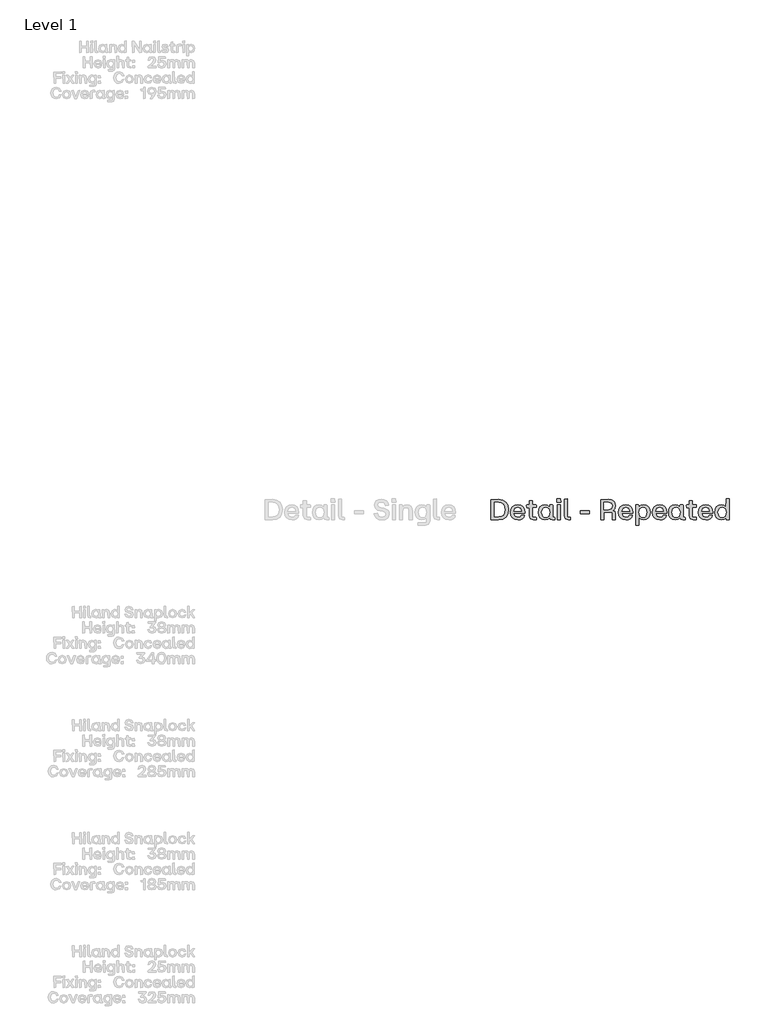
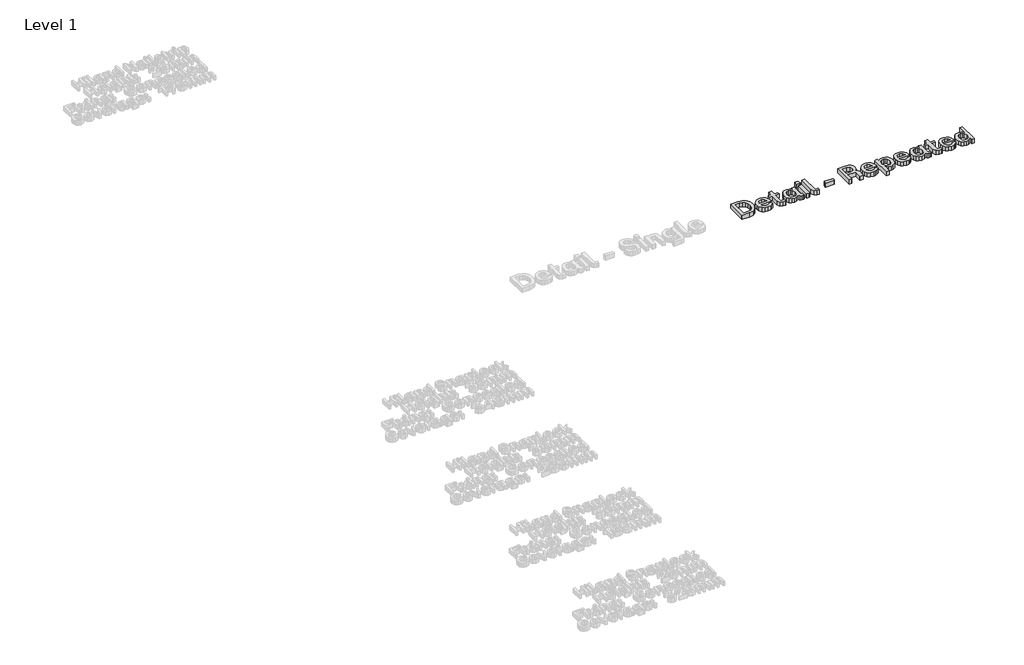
# One storey, part 26 of 64: 1 proxy.
"""IFC4 building model written with IfcOpenShell, lengths in millimetres."""

from ifc_helpers import new_model, si_unit, origin, origin_with_axes, place, context, project, spatial, polyline, outline, extrude, element, save

model = new_model("IFC4")

# Units and contexts
model_context = context("Model", 3, world=origin())
ifc_project = project(units=[si_unit("LENGTHUNIT", "METRE", prefix="MILLI")], contexts=[model_context])

# Site, building, storey
site = spatial("IfcSite", under=ifc_project)
building = spatial("IfcBuilding", under=site)
storey = spatial("IfcBuildingStorey", under=building, Name="Level 1", Elevation=0.0)

# Proxy
placement = place(None, origin())
element("IfcBuildingElementProxy", 1, Name="90mm", ObjectType="90mm", at=placement, inside=storey, context=model_context, shape_type="SweptSolid", body=[
    extrude(outline(polyline([(4310.2926176, -6500.0), (4308.9872124, -6498.7448027), (4308.9872124, -6411.3077612), (4342.5511873, -6410.002356), (4360.5475781, -6413.0054155), (4374.1193986, -6422.0145938), (4382.63905, -6436.3583606), (4385.4789338, -6455.3651852), (4382.648464, -6474.2025582), (4374.1570545, -6488.2890095), (4360.594648, -6497.0722524), (4342.5511873, -6500.0), (4310.2926176, -6500.0)]), holes=[polyline([(4323.7985402, -6487.3727155), (4341.6725492, -6487.3727155), (4353.8950326, -6485.311054), (4362.9481429, -6479.1260695), (4368.5494607, -6469.0625254), (4370.4165666, -6455.3651852), (4368.5431847, -6441.5109454), (4362.923039, -6431.1775339), (4353.8636527, -6424.7477859), (4341.6725492, -6422.6045366), (4323.7985402, -6422.6045366), (4323.7985402, -6487.3727155)])]), origin_with_axes(), (0.0, 0.0, 1.0), 20.0),
    extrude(outline(polyline([(4427.628458, -6500.7531184), (4414.0409476, -6498.4843493), (4403.5035666, -6491.6780421), (4396.7443293, -6481.0622112), (4394.4912502, -6467.3648711), (4396.7349153, -6453.5012173), (4403.4659107, -6442.7881086), (4413.9938777, -6435.9347315), (4427.628458, -6433.6502725), (4440.1584647, -6435.9033516), (4449.7324819, -6442.6625889), (4455.8044987, -6453.3129377), (4457.8285043, -6467.2393514), (4457.8285043, -6470.6785919), (4456.573307, -6472.009101), (4409.1268503, -6472.009101), (4414.6497183, -6484.6865934), (4427.628458, -6489.2053035), (4438.0465953, -6486.9082925), (4443.4439436, -6480.4691305), (4444.8246606, -6479.4147648), (4456.1967478, -6479.4147648), (4454.1633282, -6488.7314665), (4447.8120301, -6495.1925945), (4438.8248176, -6499.3629874), (4427.628458, -6500.7531184)]), holes=[polyline([(4409.2523701, -6461.5909637), (4443.8205028, -6461.5909637), (4439.0633051, -6449.6289337), (4427.628458, -6445.2733992), (4414.8631018, -6449.4155502), (4409.2523701, -6461.5909637)])]), origin_with_axes(), (0.0, 0.0, 1.0), 20.0),
    extrude(outline(polyline([(4496.6140998, -6500.0), (4482.731618, -6495.2302504), (4477.9618684, -6481.3477686), (4477.9618684, -6445.7754781), (4466.7906127, -6445.7754781), (4465.4852076, -6435.7339), (4466.7906127, -6434.4787027), (4477.9618684, -6434.4787027), (4477.9618684, -6416.45407), (4479.2170657, -6415.1486648), (4490.9657121, -6415.1486648), (4492.2209094, -6416.45407), (4492.2209094, -6434.4787027), (4508.0363949, -6434.4787027), (4509.3418001, -6435.7339), (4509.3418001, -6444.444969), (4492.2209094, -6445.7754781), (4492.2209094, -6488.7032246), (4508.0363949, -6488.7032246), (4509.3418001, -6489.9584219), (4509.3418001, -6498.7448027), (4508.0363949, -6500.0), (4496.6140998, -6500.0)])), origin_with_axes(), (0.0, 0.0, 1.0), 20.0),
    extrude(outline(polyline([(4547.2738615, -6500.7531184), (4535.3243835, -6498.4843493), (4526.0861316, -6491.6780421), (4520.1741525, -6481.0622112), (4518.2034928, -6467.3648711), (4520.1741525, -6453.5325972), (4526.0861316, -6442.8132125), (4535.3243835, -6435.9410075), (4547.2738615, -6433.6502725), (4559.1856835, -6436.5372262), (4568.160344, -6444.444969), (4568.7377347, -6435.7339), (4569.992932, -6434.4787027), (4581.6662665, -6434.4787027), (4582.9716717, -6435.7339), (4582.9716717, -6488.7032246), (4590.0760882, -6488.7032246), (4591.3312855, -6489.9584219), (4591.3312855, -6498.7448027), (4590.0760882, -6500.0), (4580.536589, -6500.0), (4572.1581473, -6497.6465051), (4569.3653333, -6490.5860205), (4559.7254183, -6497.8661646), (4547.2738615, -6500.7531184)]), holes=[polyline([(4532.7135732, -6467.3648711), (4537.6716024, -6483.3686362), (4543.5365116, -6487.7461367), (4551.2151809, -6489.2053035), (4558.7714684, -6487.7524127), (4564.470064, -6483.3937402), (4569.2398136, -6467.3648711), (4564.4324081, -6451.1728263), (4558.7243985, -6446.748256), (4551.2151809, -6445.2733992), (4543.5365116, -6446.748256), (4537.6716024, -6451.1728263), (4532.7135732, -6467.3648711)])]), origin_with_axes(), (0.0, 0.0, 1.0), 20.0),
    extrude(outline(polyline([(4603.6824266, -6500.0), (4602.3770214, -6498.7448027), (4602.3770214, -6435.7339), (4603.6824266, -6434.4787027), (4615.3557612, -6434.4787027), (4616.6109584, -6435.7339), (4616.6109584, -6498.7448027), (4615.3557612, -6500.0), (4603.6824266, -6500.0)])), origin_with_axes(), (0.0, 0.0, 1.0), 20.0),
    extrude(outline(polyline([(4601.3728636, -6421.8514182), (4601.3728636, -6407.9940404), (4602.6280609, -6406.6635313), (4616.4854387, -6406.6635313), (4617.8159478, -6421.8514182), (4616.4854387, -6423.1066155), (4602.6280609, -6423.1066155), (4601.3728636, -6421.8514182)])), origin_with_axes(), (0.0, 0.0, 1.0), 20.0),
    extrude(outline(polyline([(4651.5305464, -6500.0), (4637.6731686, -6495.2302504), (4632.903419, -6481.3477686), (4632.903419, -6408.7471587), (4645.8821587, -6407.4166496), (4647.137356, -6408.7471587), (4647.137356, -6488.7032246), (4659.1370418, -6488.7032246), (4660.3922391, -6489.9584219), (4660.3922391, -6498.7448027), (4659.1370418, -6500.0), (4651.5305464, -6500.0)])), origin_with_axes(), (0.0, 0.0, 1.0), 20.0),
    extrude(outline(polyline([(4705.1776775, -6472.887739), (4703.9224803, -6471.5572299), (4703.9224803, -6461.5909637), (4705.1776775, -6460.2604546), (4743.7875455, -6460.2604546), (4745.0427427, -6461.5909637), (4745.0427427, -6471.5572299), (4743.7875455, -6472.887739), (4705.1776775, -6472.887739)])), origin_with_axes(), (0.0, 0.0, 1.0), 20.0),
    extrude(outline(polyline([(4795.5016728, -6500.0), (4794.1962677, -6498.7448027), (4794.1962677, -6411.3077612), (4828.011282, -6410.002356), (4841.802762, -6411.7439422), (4851.7972702, -6416.9687008), (4857.869287, -6425.5636641), (4859.8932926, -6437.4158643), (4856.9184751, -6451.1602744), (4848.219958, -6459.6328559), (4857.4833138, -6462.4570498), (4859.8932926, -6470.176513), (4859.8932926, -6498.7448027), (4858.5878874, -6500.0), (4846.4124739, -6500.0), (4845.0819648, -6498.7448027), (4845.0819648, -6467.3648711), (4809.0075954, -6467.3648711), (4809.0075954, -6498.7448027), (4807.6770863, -6500.0), (4795.5016728, -6500.0)]), holes=[polyline([(4809.0075954, -6454.7375866), (4828.011282, -6454.7375866), (4840.7891902, -6450.7837152), (4844.9564451, -6438.6710616), (4840.7891902, -6426.558408), (4828.011282, -6422.6045366), (4809.0075954, -6422.6045366), (4809.0075954, -6454.7375866)])]), origin_with_axes(), (0.0, 0.0, 1.0), 20.0),
    extrude(outline(polyline([(4906.4109033, -6500.7531184), (4892.8233929, -6498.4843493), (4882.2860118, -6491.6780421), (4875.5267745, -6481.0622112), (4873.2736954, -6467.3648711), (4875.5173606, -6453.5012173), (4882.2483559, -6442.7881086), (4892.776323, -6435.9347315), (4906.4109033, -6433.6502725), (4918.94091, -6435.9033516), (4928.5149271, -6442.6625889), (4934.5869439, -6453.3129377), (4936.6109495, -6467.2393514), (4936.6109495, -6470.6785919), (4935.3557522, -6472.009101), (4887.9092956, -6472.009101), (4893.4321635, -6484.6865934), (4906.4109033, -6489.2053035), (4916.8290406, -6486.9082925), (4922.2263888, -6480.4691305), (4923.6071058, -6479.4147648), (4934.9791931, -6479.4147648), (4932.9457735, -6488.7314665), (4926.5944753, -6495.1925945), (4917.6072629, -6499.3629874), (4906.4109033, -6500.7531184)]), holes=[polyline([(4888.0348153, -6461.5909637), (4922.602948, -6461.5909637), (4917.8457504, -6449.6289337), (4906.4109033, -6445.2733992), (4893.6455471, -6449.4155502), (4888.0348153, -6461.5909637)])]), origin_with_axes(), (0.0, 0.0, 1.0), 20.0),
    extrude(outline(polyline([(4950.7193668, -6524.4010349), (4949.4139616, -6523.1458376), (4949.4139616, -6435.7339), (4950.7193668, -6434.4787027), (4961.7651027, -6434.4787027), (4963.0203, -6435.7339), (4963.0203, -6444.3194493), (4972.660215, -6436.5372262), (4985.1117719, -6433.6502725), (4997.0612498, -6435.9253176), (5006.2995017, -6442.7504527), (5012.2114809, -6453.3913875), (5014.1821406, -6467.1138316), (5012.2114809, -6480.9210016), (5006.2995017, -6491.6152823), (4997.0612498, -6498.4686593), (4985.1117719, -6500.7531184), (4973.1999498, -6497.8661646), (4964.2252894, -6489.9584219), (4963.6478986, -6523.1458376), (4962.3927014, -6524.4010349), (4950.7193668, -6524.4010349)]), holes=[polyline([(4963.1458197, -6467.1138316), (4967.9532252, -6483.3058764), (4973.6612348, -6487.7304467), (4981.1704525, -6489.2053035), (4988.8491217, -6487.7304467), (4994.714031, -6483.3058764), (4999.6720602, -6467.1138316), (4994.714031, -6451.1100665), (4988.8491217, -6446.732566), (4981.1704525, -6445.2733992), (4973.6141649, -6446.723152), (4967.9155693, -6451.0724106), (4963.1458197, -6467.1138316)])]), origin_with_axes(), (0.0, 0.0, 1.0), 20.0),
    extrude(outline(polyline([(5055.8295859, -6500.7531184), (5042.2420754, -6498.4843493), (5031.7046944, -6491.6780421), (5024.9454571, -6481.0622112), (5022.692378, -6467.3648711), (5024.9360431, -6453.5012173), (5031.6670385, -6442.7881086), (5042.1950055, -6435.9347315), (5055.8295859, -6433.6502725), (5068.3595926, -6435.9033516), (5077.9336097, -6442.6625889), (5084.0056265, -6453.3129377), (5086.0296321, -6467.2393514), (5086.0296321, -6470.6785919), (5084.7744348, -6472.009101), (5037.3279781, -6472.009101), (5042.8508461, -6484.6865934), (5055.8295859, -6489.2053035), (5066.2477232, -6486.9082925), (5071.6450714, -6480.4691305), (5073.0257884, -6479.4147648), (5084.3978756, -6479.4147648), (5082.3644561, -6488.7314665), (5076.0131579, -6495.1925945), (5067.0259455, -6499.3629874), (5055.8295859, -6500.7531184)]), holes=[polyline([(5037.4534979, -6461.5909637), (5072.0216306, -6461.5909637), (5067.2644329, -6449.6289337), (5055.8295859, -6445.2733992), (5043.0642297, -6449.4155502), (5037.4534979, -6461.5909637)])]), origin_with_axes(), (0.0, 0.0, 1.0), 20.0),
    extrude(outline(polyline([(5124.0621092, -6500.7531184), (5112.1126313, -6498.4843493), (5102.8743794, -6491.6780421), (5096.9624003, -6481.0622112), (5094.9917406, -6467.3648711), (5096.9624003, -6453.5325972), (5102.8743794, -6442.8132125), (5112.1126313, -6435.9410075), (5124.0621092, -6433.6502725), (5135.9739313, -6436.5372262), (5144.9485918, -6444.444969), (5145.5259825, -6435.7339), (5146.7811798, -6434.4787027), (5158.4545143, -6434.4787027), (5159.7599195, -6435.7339), (5159.7599195, -6488.7032246), (5166.864336, -6488.7032246), (5168.1195333, -6489.9584219), (5168.1195333, -6498.7448027), (5166.864336, -6500.0), (5157.3248368, -6500.0), (5148.9463951, -6497.6465051), (5146.1535811, -6490.5860205), (5136.5136661, -6497.8661646), (5124.0621092, -6500.7531184)]), holes=[polyline([(5109.501821, -6467.3648711), (5114.4598502, -6483.3686362), (5120.3247594, -6487.7461367), (5128.0034287, -6489.2053035), (5135.5597162, -6487.7524127), (5141.2583118, -6483.3937402), (5146.0280614, -6467.3648711), (5141.2206559, -6451.1728263), (5135.5126463, -6446.748256), (5128.0034287, -6445.2733992), (5120.3247594, -6446.748256), (5114.4598502, -6451.1728263), (5109.501821, -6467.3648711)])]), origin_with_axes(), (0.0, 0.0, 1.0), 20.0),
    extrude(outline(polyline([(5205.1478526, -6500.0), (5191.2653709, -6495.2302504), (5186.4956213, -6481.3477686), (5186.4956213, -6445.7754781), (5175.3243656, -6445.7754781), (5174.0189604, -6435.7339), (5175.3243656, -6434.4787027), (5186.4956213, -6434.4787027), (5186.4956213, -6416.45407), (5187.7508185, -6415.1486648), (5199.4994649, -6415.1486648), (5200.7546622, -6416.45407), (5200.7546622, -6434.4787027), (5216.5701478, -6434.4787027), (5217.8755529, -6435.7339), (5217.8755529, -6444.444969), (5200.7546622, -6445.7754781), (5200.7546622, -6488.7032246), (5216.5701478, -6488.7032246), (5217.8755529, -6489.9584219), (5217.8755529, -6498.7448027), (5216.5701478, -6500.0), (5205.1478526, -6500.0)])), origin_with_axes(), (0.0, 0.0, 1.0), 20.0),
    extrude(outline(polyline([(5259.8744535, -6500.7531184), (5246.286943, -6498.4843493), (5235.749562, -6491.6780421), (5228.9903247, -6481.0622112), (5226.7372456, -6467.3648711), (5228.9809107, -6453.5012173), (5235.7119061, -6442.7881086), (5246.2398732, -6435.9347315), (5259.8744535, -6433.6502725), (5272.4044602, -6435.9033516), (5281.9784773, -6442.6625889), (5288.0504941, -6453.3129377), (5290.0744997, -6467.2393514), (5290.0744997, -6470.6785919), (5288.8193024, -6472.009101), (5241.3728458, -6472.009101), (5246.8957137, -6484.6865934), (5259.8744535, -6489.2053035), (5270.2925908, -6486.9082925), (5275.689939, -6480.4691305), (5277.070656, -6479.4147648), (5288.4427432, -6479.4147648), (5286.4093237, -6488.7314665), (5280.0580255, -6495.1925945), (5271.0708131, -6499.3629874), (5259.8744535, -6500.7531184)]), holes=[polyline([(5241.4983655, -6461.5909637), (5276.0664982, -6461.5909637), (5271.3093006, -6449.6289337), (5259.8744535, -6445.2733992), (5247.1090973, -6449.4155502), (5241.4983655, -6461.5909637)])]), origin_with_axes(), (0.0, 0.0, 1.0), 20.0),
    extrude(outline(polyline([(5328.1069769, -6500.7531184), (5316.1574989, -6498.4843493), (5306.919247, -6491.6780421), (5301.0072679, -6481.0622112), (5299.0366082, -6467.3648711), (5301.0072679, -6453.5325972), (5306.919247, -6442.8132125), (5316.1574989, -6435.9410075), (5328.1069769, -6433.6502725), (5340.0187989, -6436.5372262), (5348.9934594, -6444.444969), (5349.5708501, -6408.7471587), (5350.8260474, -6407.4166496), (5362.4993819, -6407.4166496), (5363.8047871, -6498.7448027), (5362.4993819, -6500.0), (5351.453646, -6500.0), (5350.1984487, -6498.7448027), (5350.1984487, -6490.0839416), (5340.5585337, -6497.8661646), (5328.1069769, -6500.7531184)]), holes=[polyline([(5313.5466886, -6467.3648711), (5318.5047178, -6483.3686362), (5324.369627, -6487.7461367), (5332.0482963, -6489.2053035), (5339.6045838, -6487.7524127), (5345.3031794, -6483.3937402), (5350.072929, -6467.3648711), (5345.2655235, -6451.1728263), (5339.5575139, -6446.748256), (5332.0482963, -6445.2733992), (5324.369627, -6446.748256), (5318.5047178, -6451.1728263), (5313.5466886, -6467.3648711)])]), origin_with_axes(), (0.0, 0.0, 1.0), 20.0),
])

save(model, "model.ifc")
